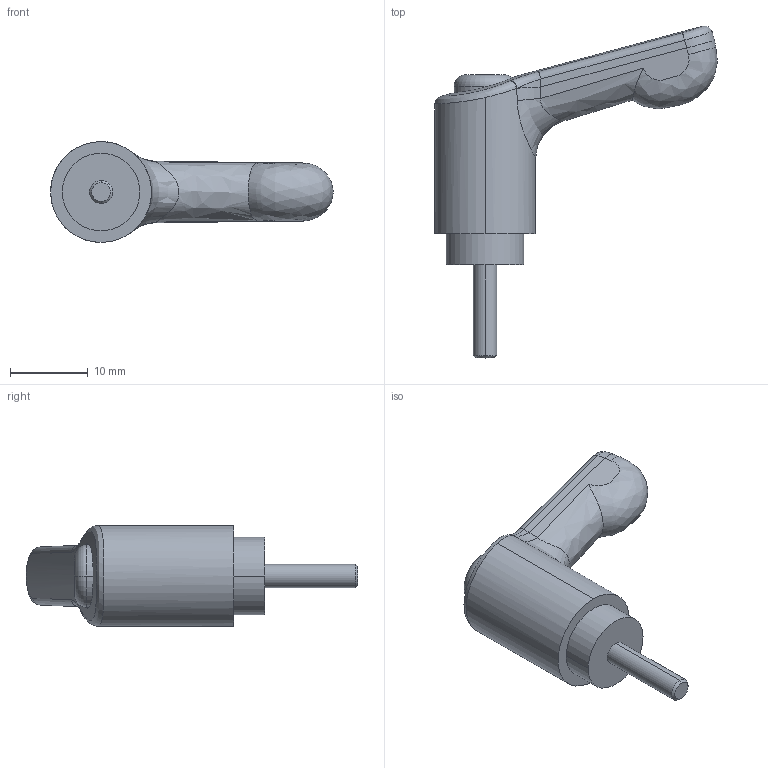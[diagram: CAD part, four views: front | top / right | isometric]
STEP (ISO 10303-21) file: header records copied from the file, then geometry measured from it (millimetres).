
FILE_DESCRIPTION (( 'STEP AP214' ), '1' );
FILE_NAME ('300.1-30-M3-12-RH.step', '2021-04-09T10:22:02', ( '' ), ( '' ), 'SwSTEP 2.0', 'SolidWorks 2019', '' );
FILE_SCHEMA (( 'AUTOMOTIVE_DESIGN' ));
Length unit declared in the file: millimetre
Products named in the file (1): 300.1-30-M3-12-RH
Bounding box: 36.44 x 42.8 x 13 mm (x, y, z)
Volume: 4182.3 mm3; surface area: 1985.3 mm2
Topology: 1 solids, 1 shells, 58 faces, 143 edges, 92 vertices
Faces by surface type: cylinder 28, bspline 16, plane 10, cone 2, torus 2
Entity records: 3313 total; most frequent: CARTESIAN_POINT 1684, ORIENTED_EDGE 286, DIRECTION 241, EDGE_CURVE 143, AXIS2_PLACEMENT_3D 103, VERTEX_POINT 92, EDGE_LOOP 63, CIRCLE 60
